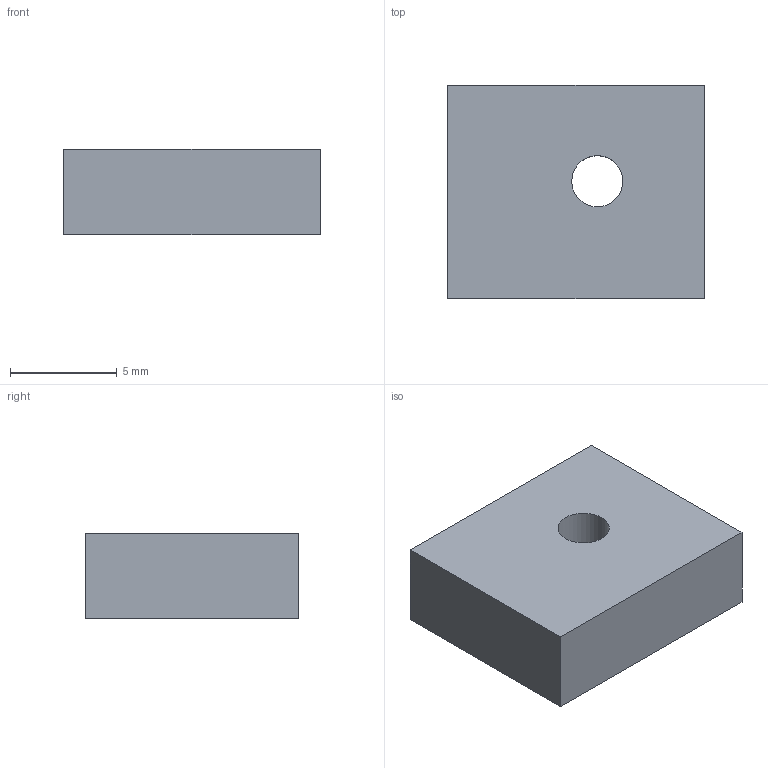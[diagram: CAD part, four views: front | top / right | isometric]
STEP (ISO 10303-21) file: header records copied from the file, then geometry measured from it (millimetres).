
FILE_DESCRIPTION(('Open CASCADE Model'),'2;1');
FILE_NAME('Open CASCADE Shape Model','2000-01-01T00:00:00',('Author'),( 'Open CASCADE'),'Open CASCADE STEP processor 7.9','Open CASCADE 7.9' ,'Unknown');
FILE_SCHEMA(('AUTOMOTIVE_DESIGN { 1 0 10303 214 1 1 1 1 }'));
Length unit declared in the file: millimetre
Products named in the file (1): Open CASCADE STEP translator 7.9 1
Bounding box: 12 x 10 x 4 mm (x, y, z)
Volume: 461.9 mm3; surface area: 437.1 mm2
Topology: 1 solids, 1 shells, 7 faces, 15 edges, 10 vertices
Faces by surface type: plane 6, cylinder 1
Full cylindrical faces by diameter (mm): 2.4 x1
Entity records: 400 total; most frequent: CARTESIAN_POINT 63, DIRECTION 63, LINE 41, VECTOR 41, ORIENTED_EDGE 30, PCURVE 30, DEFINITIONAL_REPRESENTATION 30, EDGE_CURVE 15
